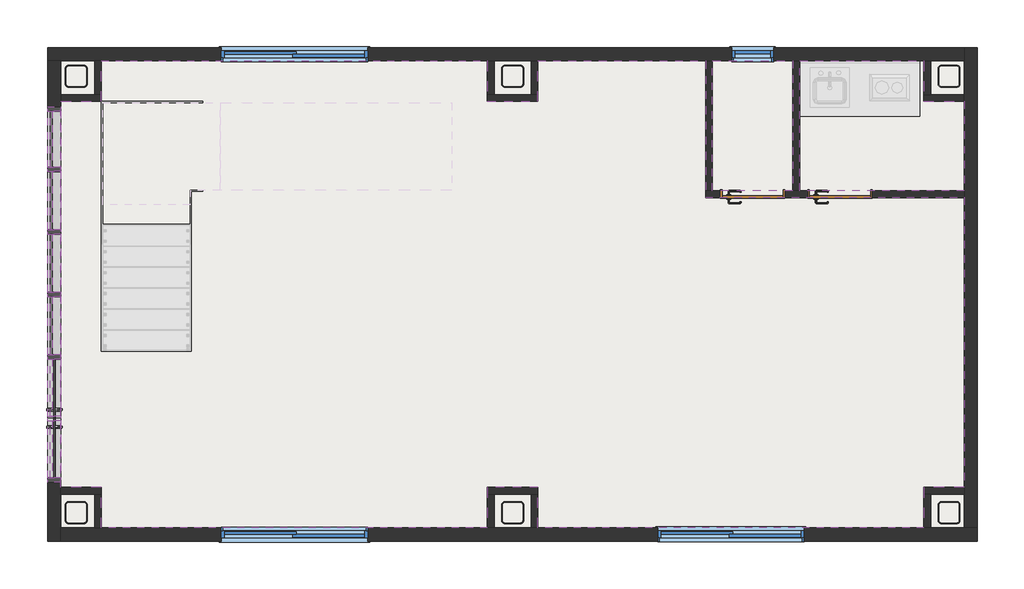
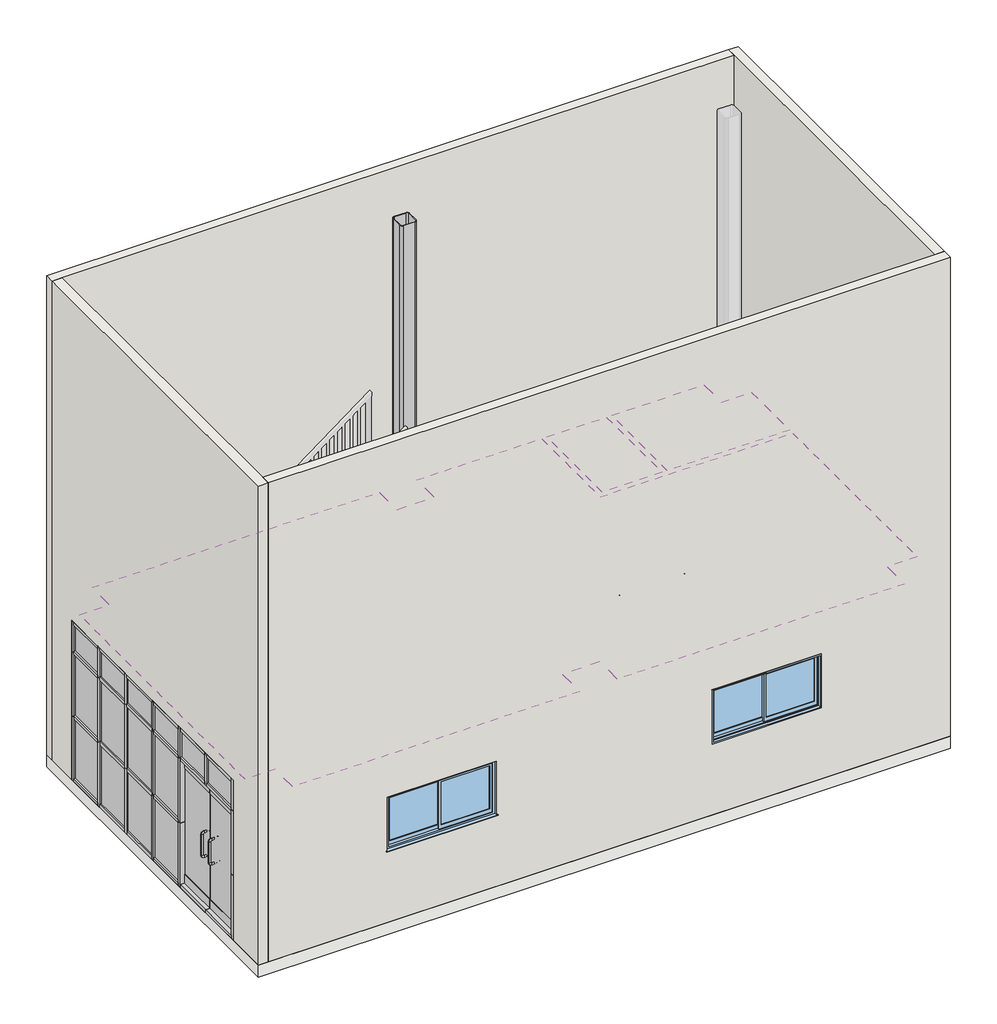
# One storey, part 1 of 2: 41 members, 21 walls, 15 plates, 5 columns, 4 windows, 3 coverings, 2 doors, 1 slab.
"""IFC4 building model written with IfcOpenShell, lengths in millimetres."""

from ifc_helpers import new_model, si_unit, frame, origin, origin_with_axes, place, context, project, spatial, polyline, outline, extrude, faceted_brep, transform, mapped, element, save
from components import hss250x250x12_d809ddac, w700h2000_2a992a34, member_50x150mm_a0e2e66f, member_50x150mm_a9c68ae1, member_50x150mm_62bde7b1, member_50x150mm_43fc7b63, member_50x150mm_86d21357, member_50x150mm_22f77a7a, member_50x150mm_8a69f4a4, member_50x150mm_b3666dbd, member_50x150mm_1a36453b, member_50x150mm_5157afd8, member_50x150mm_37d6beb1, member_50x150mm_f4543df4, plate_bb3d00ed, plate_81b017a3, plate_3e90128c, plate_3f01d40e, plate_8868ab24, plate_6b8e4332, plate_e66cd56a, plate_cf903d6a, w0400h0800_0b9f01bb, w1600h0800_d7cd19be

model = new_model("IFC4")

# Units and contexts
model_context = context("Model", 3, world=origin())
ifc_project = project(units=[si_unit("LENGTHUNIT", "METRE", prefix="MILLI")], contexts=[model_context])

# Site, building, storey
site = spatial("IfcSite", under=ifc_project)
building = spatial("IfcBuilding", under=site)
storey = spatial("IfcBuildingStorey", under=building, Name="1階", Elevation=200.0)

# Columns
placement = place(None, origin())
hss250x250x12_shape = hss250x250x12_d809ddac(model_context)
element("IfcColumn", 1, ObjectType="正方型鋼管-柱 : HSS250x250x12", at=placement, inside=storey, context=model_context, shape_type="MappedRepresentation", body=[
    mapped(hss250x250x12_shape, transform((-5047.3880564, -2413.9617267, 0.0), x_axis=(-1.0, 0.0, 0.0), y_axis=(0.0, -1.0, 0.0), z_axis=(0.0, 0.0, 1.0))),
])
element("IfcColumn", 2, ObjectType="正方型鋼管-柱 : HSS250x250x12", at=placement, inside=storey, context=model_context, shape_type="MappedRepresentation", body=[
    mapped(hss250x250x12_shape, transform((-5047.3880564, 2586.0382733, 0.0), x_axis=(-1.0, 0.0, 0.0), y_axis=(0.0, -1.0, 0.0), z_axis=(0.0, 0.0, 1.0))),
])
element("IfcColumn", 3, ObjectType="正方型鋼管-柱 : HSS250x250x12", at=placement, inside=storey, context=model_context, shape_type="MappedRepresentation", body=[
    mapped(hss250x250x12_shape, transform((-47.3880564, -2413.9617267, 0.0), x_axis=(-1.0, 0.0, 0.0), y_axis=(0.0, -1.0, 0.0), z_axis=(0.0, 0.0, 1.0))),
])
element("IfcColumn", 4, ObjectType="正方型鋼管-柱 : HSS250x250x12", at=placement, inside=storey, context=model_context, shape_type="MappedRepresentation", body=[
    mapped(hss250x250x12_shape, transform((-47.3880564, 2586.0382733, 0.0), x_axis=(-1.0, 0.0, 0.0), y_axis=(0.0, -1.0, 0.0), z_axis=(0.0, 0.0, 1.0))),
])
element("IfcColumn", 5, ObjectType="正方型鋼管-柱 : HSS250x250x12", at=placement, inside=storey, context=model_context, shape_type="MappedRepresentation", body=[
    mapped(hss250x250x12_shape, transform((4952.6119436, -2413.9617267, 0.0), x_axis=(-1.0, 0.0, 0.0), y_axis=(0.0, -1.0, 0.0), z_axis=(0.0, 0.0, 1.0))),
])

# Coverings
element("IfcCovering", 6, ObjectType="グリッド 600x600mm", at=placement, inside=storey, context=model_context, shape_type="SweptSolid", body=[
    extrude(outline(polyline([(-4757.8880564, 2296.5382733), (-4757.8880564, 2761.0382733), (-336.8880564, 2761.0382733), (-336.8880564, 2296.5382733), (242.1119436, 2296.5382733), (242.1119436, 2761.0382733), (2163.1119436, 2761.0382733), (2163.1119436, 1196.5382733), (5127.6119436, 1196.5382733), (5127.6119436, -2124.4617267), (4663.1119436, -2124.4617267), (4663.1119436, -2588.9617267), (242.1119436, -2588.9617267), (242.1119436, -2124.4617267), (-336.8880564, -2124.4617267), (-336.8880564, -2588.9617267), (-4757.8880564, -2588.9617267), (-4757.8880564, -2124.4617267), (-5222.3880564, -2124.4617267), (-5222.3880564, 2296.5382733), (-4757.8880564, 2296.5382733)])), frame((0.0, 0.0, 2800.0), z_axis=(0.0, 0.0, 1.0), x_axis=(1.0, 0.0, 0.0)), (0.0, 0.0, 1.0), 52.0),
])
element("IfcCovering", 7, ObjectType="グリッド 600x600mm", at=placement, inside=storey, context=model_context, shape_type="SweptSolid", body=[
    extrude(outline(polyline([(2242.1119436, 2761.0382733), (3163.1119436, 2761.0382733), (3163.1119436, 1275.5382733), (2242.1119436, 1275.5382733), (2242.1119436, 2761.0382733)])), frame((0.0, 0.0, 2800.0), z_axis=(0.0, 0.0, 1.0), x_axis=(1.0, 0.0, 0.0)), (0.0, 0.0, 1.0), 52.0),
])
element("IfcCovering", 8, ObjectType="グリッド 600x600mm", at=placement, inside=storey, context=model_context, shape_type="SweptSolid", body=[
    extrude(outline(polyline([(3242.1119436, 1275.5382733), (3242.1119436, 2761.0382733), (4663.1119436, 2761.0382733), (4663.1119436, 2296.5382733), (5127.6119436, 2296.5382733), (5127.6119436, 1275.5382733), (3242.1119436, 1275.5382733)])), frame((0.0, 0.0, 2800.0), z_axis=(0.0, 0.0, 1.0), x_axis=(1.0, 0.0, 0.0)), (0.0, 0.0, 1.0), 52.0),
])

# Doors
w700h2000_shape = w700h2000_2a992a34(model_context)
element("IfcDoor", 9, ObjectType="片開き : w700h2000", at=placement, inside=storey, context=model_context, shape_type="MappedRepresentation", body=[
    mapped(w700h2000_shape, transform((2702.6119436, 1236.0382733, 200.0), x_axis=(1.0, 0.0, 0.0), y_axis=(0.0, 1.0, 0.0), z_axis=(0.0, 0.0, 1.0))),
])
element("IfcDoor", 10, ObjectType="片開き : w700h2000", at=placement, inside=storey, context=model_context, shape_type="MappedRepresentation", body=[
    mapped(w700h2000_shape, transform((3702.6119436, 1236.0382733, 200.0), x_axis=(1.0, 0.0, 0.0), y_axis=(0.0, 1.0, 0.0), z_axis=(0.0, 0.0, 1.0))),
])

# Members
member_50x150mm_shape = member_50x150mm_a0e2e66f(model_context)
element("IfcMember", 11, ObjectType="長方形マリオン : 50x150mm", at=placement, inside=storey, context=model_context, shape_type="MappedRepresentation", body=[
    mapped(member_50x150mm_shape, transform((-5297.3880564, 2186.0382733, 2800.0), x_axis=(0.0, 0.0, 1.0), y_axis=(1.0, 0.0, 0.0), z_axis=(0.0, 1.0, 0.0))),
])
member_50x150mm_2_shape = member_50x150mm_a9c68ae1(model_context)
element("IfcMember", 12, ObjectType="長方形マリオン : 50x150mm", at=placement, inside=storey, context=model_context, shape_type="MappedRepresentation", body=[
    mapped(member_50x150mm_2_shape, transform((-5297.3880564, 86.0382733, 200.0), x_axis=(0.0, 1.0, 0.0), y_axis=(1.0, 0.0, 0.0), z_axis=(0.0, 0.0, -1.0))),
])
element("IfcMember", 13, ObjectType="長方形マリオン : 50x150mm", at=placement, inside=storey, context=model_context, shape_type="MappedRepresentation", body=[
    mapped(member_50x150mm_2_shape, transform((-5297.3880564, 1519.3716066, 200.0), x_axis=(0.0, 1.0, 0.0), y_axis=(1.0, 0.0, 0.0), z_axis=(0.0, 0.0, -1.0))),
])
element("IfcMember", 14, ObjectType="長方形マリオン : 50x150mm", at=placement, inside=storey, context=model_context, shape_type="MappedRepresentation", body=[
    mapped(member_50x150mm_2_shape, transform((-5297.3880564, 802.7049399, 200.0), x_axis=(0.0, 1.0, 0.0), y_axis=(1.0, 0.0, 0.0), z_axis=(0.0, 0.0, -1.0))),
])
element("IfcMember", 15, ObjectType="長方形マリオン : 50x150mm", at=placement, inside=storey, context=model_context, shape_type="MappedRepresentation", body=[
    mapped(member_50x150mm_2_shape, transform((-5297.3880564, -630.6283934, 200.0), x_axis=(0.0, 1.0, 0.0), y_axis=(1.0, 0.0, 0.0), z_axis=(0.0, 0.0, -1.0))),
])
member_50x150mm_3_shape = member_50x150mm_62bde7b1(model_context)
element("IfcMember", 16, ObjectType="長方形マリオン : 50x150mm", at=placement, inside=storey, context=model_context, shape_type="MappedRepresentation", body=[
    mapped(member_50x150mm_3_shape, transform((-5297.3880564, 2186.0382733, 2300.0), x_axis=(0.0, 0.0, 1.0), y_axis=(1.0, 0.0, 0.0), z_axis=(0.0, 1.0, 0.0))),
])
element("IfcMember", 17, ObjectType="長方形マリオン : 50x150mm", at=placement, inside=storey, context=model_context, shape_type="MappedRepresentation", body=[
    mapped(member_50x150mm_3_shape, transform((-5297.3880564, 2186.0382733, 1250.0), x_axis=(0.0, 0.0, 1.0), y_axis=(1.0, 0.0, 0.0), z_axis=(0.0, 1.0, 0.0))),
])
member_50x150mm_4_shape = member_50x150mm_43fc7b63(model_context)
element("IfcMember", 18, ObjectType="長方形マリオン : 50x150mm", at=placement, inside=storey, context=model_context, shape_type="MappedRepresentation", body=[
    mapped(member_50x150mm_4_shape, transform((-5297.3880564, 777.7049399, 2300.0), x_axis=(0.0, 0.0, 1.0), y_axis=(1.0, 0.0, 0.0), z_axis=(0.0, 1.0, 0.0))),
])
element("IfcMember", 19, ObjectType="長方形マリオン : 50x150mm", at=placement, inside=storey, context=model_context, shape_type="MappedRepresentation", body=[
    mapped(member_50x150mm_4_shape, transform((-5297.3880564, 1494.3716066, 2300.0), x_axis=(0.0, 0.0, 1.0), y_axis=(1.0, 0.0, 0.0), z_axis=(0.0, 1.0, 0.0))),
])
element("IfcMember", 20, ObjectType="長方形マリオン : 50x150mm", at=placement, inside=storey, context=model_context, shape_type="MappedRepresentation", body=[
    mapped(member_50x150mm_4_shape, transform((-5297.3880564, 61.0382733, 2300.0), x_axis=(0.0, 0.0, 1.0), y_axis=(1.0, 0.0, 0.0), z_axis=(0.0, 1.0, 0.0))),
])
element("IfcMember", 21, ObjectType="長方形マリオン : 50x150mm", at=placement, inside=storey, context=model_context, shape_type="MappedRepresentation", body=[
    mapped(member_50x150mm_4_shape, transform((-5297.3880564, 777.7049399, 1250.0), x_axis=(0.0, 0.0, 1.0), y_axis=(1.0, 0.0, 0.0), z_axis=(0.0, 1.0, 0.0))),
])
element("IfcMember", 22, ObjectType="長方形マリオン : 50x150mm", at=placement, inside=storey, context=model_context, shape_type="MappedRepresentation", body=[
    mapped(member_50x150mm_4_shape, transform((-5297.3880564, 1494.3716066, 1250.0), x_axis=(0.0, 0.0, 1.0), y_axis=(1.0, 0.0, 0.0), z_axis=(0.0, 1.0, 0.0))),
])
element("IfcMember", 23, ObjectType="長方形マリオン : 50x150mm", at=placement, inside=storey, context=model_context, shape_type="MappedRepresentation", body=[
    mapped(member_50x150mm_4_shape, transform((-5297.3880564, 61.0382733, 1250.0), x_axis=(0.0, 0.0, 1.0), y_axis=(1.0, 0.0, 0.0), z_axis=(0.0, 1.0, 0.0))),
])
member_50x150mm_5_shape = member_50x150mm_86d21357(model_context)
element("IfcMember", 24, ObjectType="長方形マリオン : 50x150mm", at=placement, inside=storey, context=model_context, shape_type="MappedRepresentation", body=[
    mapped(member_50x150mm_5_shape, transform((-5297.3880564, 111.0382733, 200.0), x_axis=(0.0, 0.0, -1.0), y_axis=(1.0, 0.0, 0.0), z_axis=(0.0, -1.0, 0.0))),
])
element("IfcMember", 25, ObjectType="長方形マリオン : 50x150mm", at=placement, inside=storey, context=model_context, shape_type="MappedRepresentation", body=[
    mapped(member_50x150mm_5_shape, transform((-5297.3880564, 827.7049399, 200.0), x_axis=(0.0, 0.0, -1.0), y_axis=(1.0, 0.0, 0.0), z_axis=(0.0, -1.0, 0.0))),
])
element("IfcMember", 26, ObjectType="長方形マリオン : 50x150mm", at=placement, inside=storey, context=model_context, shape_type="MappedRepresentation", body=[
    mapped(member_50x150mm_5_shape, transform((-5297.3880564, -605.6283934, 200.0), x_axis=(0.0, 0.0, -1.0), y_axis=(1.0, 0.0, 0.0), z_axis=(0.0, -1.0, 0.0))),
])
element("IfcMember", 27, ObjectType="長方形マリオン : 50x150mm", at=placement, inside=storey, context=model_context, shape_type="MappedRepresentation", body=[
    mapped(member_50x150mm_shape, transform((-5297.3880564, 1544.3716066, 200.0), x_axis=(0.0, 0.0, -1.0), y_axis=(1.0, 0.0, 0.0), z_axis=(0.0, -1.0, 0.0))),
])
element("IfcMember", 28, ObjectType="長方形マリオン : 50x150mm", at=placement, inside=storey, context=model_context, shape_type="MappedRepresentation", body=[
    mapped(member_50x150mm_5_shape, transform((-5297.3880564, 61.0382733, 2800.0), x_axis=(0.0, 0.0, 1.0), y_axis=(1.0, 0.0, 0.0), z_axis=(0.0, 1.0, 0.0))),
])
element("IfcMember", 29, ObjectType="長方形マリオン : 50x150mm", at=placement, inside=storey, context=model_context, shape_type="MappedRepresentation", body=[
    mapped(member_50x150mm_5_shape, transform((-5297.3880564, 1494.3716066, 2800.0), x_axis=(0.0, 0.0, 1.0), y_axis=(1.0, 0.0, 0.0), z_axis=(0.0, 1.0, 0.0))),
])
element("IfcMember", 30, ObjectType="長方形マリオン : 50x150mm", at=placement, inside=storey, context=model_context, shape_type="MappedRepresentation", body=[
    mapped(member_50x150mm_5_shape, transform((-5297.3880564, 777.7049399, 2800.0), x_axis=(0.0, 0.0, 1.0), y_axis=(1.0, 0.0, 0.0), z_axis=(0.0, 1.0, 0.0))),
])
member_50x150mm_6_shape = member_50x150mm_22f77a7a(model_context)
element("IfcMember", 31, ObjectType="長方形マリオン : 50x150mm", at=placement, inside=storey, context=model_context, shape_type="MappedRepresentation", body=[
    mapped(member_50x150mm_6_shape, transform((-5297.3880564, 86.0382733, 2300.0), x_axis=(0.0, 1.0, 0.0), y_axis=(1.0, 0.0, 0.0), z_axis=(0.0, 0.0, -1.0))),
])
element("IfcMember", 32, ObjectType="長方形マリオン : 50x150mm", at=placement, inside=storey, context=model_context, shape_type="MappedRepresentation", body=[
    mapped(member_50x150mm_6_shape, transform((-5297.3880564, 1519.3716066, 2300.0), x_axis=(0.0, 1.0, 0.0), y_axis=(1.0, 0.0, 0.0), z_axis=(0.0, 0.0, -1.0))),
])
element("IfcMember", 33, ObjectType="長方形マリオン : 50x150mm", at=placement, inside=storey, context=model_context, shape_type="MappedRepresentation", body=[
    mapped(member_50x150mm_6_shape, transform((-5297.3880564, 802.7049399, 2300.0), x_axis=(0.0, 1.0, 0.0), y_axis=(1.0, 0.0, 0.0), z_axis=(0.0, 0.0, -1.0))),
])
element("IfcMember", 34, ObjectType="長方形マリオン : 50x150mm", at=placement, inside=storey, context=model_context, shape_type="MappedRepresentation", body=[
    mapped(member_50x150mm_6_shape, transform((-5297.3880564, -630.6283934, 2300.0), x_axis=(0.0, 1.0, 0.0), y_axis=(1.0, 0.0, 0.0), z_axis=(0.0, 0.0, -1.0))),
])
element("IfcMember", 35, ObjectType="長方形マリオン : 50x150mm", at=placement, inside=storey, context=model_context, shape_type="MappedRepresentation", body=[
    mapped(member_50x150mm_2_shape, transform((-5297.3880564, 86.0382733, 1250.0), x_axis=(0.0, 1.0, 0.0), y_axis=(1.0, 0.0, 0.0), z_axis=(0.0, 0.0, -1.0))),
])
element("IfcMember", 36, ObjectType="長方形マリオン : 50x150mm", at=placement, inside=storey, context=model_context, shape_type="MappedRepresentation", body=[
    mapped(member_50x150mm_2_shape, transform((-5297.3880564, 1519.3716066, 1250.0), x_axis=(0.0, 1.0, 0.0), y_axis=(1.0, 0.0, 0.0), z_axis=(0.0, 0.0, -1.0))),
])
element("IfcMember", 37, ObjectType="長方形マリオン : 50x150mm", at=placement, inside=storey, context=model_context, shape_type="MappedRepresentation", body=[
    mapped(member_50x150mm_2_shape, transform((-5297.3880564, 802.7049399, 1250.0), x_axis=(0.0, 1.0, 0.0), y_axis=(1.0, 0.0, 0.0), z_axis=(0.0, 0.0, -1.0))),
])
element("IfcMember", 38, ObjectType="長方形マリオン : 50x150mm", at=placement, inside=storey, context=model_context, shape_type="MappedRepresentation", body=[
    mapped(member_50x150mm_2_shape, transform((-5297.3880564, -630.6283934, 1250.0), x_axis=(0.0, 1.0, 0.0), y_axis=(1.0, 0.0, 0.0), z_axis=(0.0, 0.0, -1.0))),
])
member_50x150mm_7_shape = member_50x150mm_8a69f4a4(model_context)
element("IfcMember", 39, ObjectType="長方形マリオン : 50x150mm", at=placement, inside=storey, context=model_context, shape_type="MappedRepresentation", body=[
    mapped(member_50x150mm_7_shape, transform((-5297.3880564, -1334.7950601, 2275.0), x_axis=(0.0, 1.0, 0.0), y_axis=(1.0, 0.0, 0.0), z_axis=(0.0, 0.0, -1.0))),
])
member_50x150mm_8_shape = member_50x150mm_b3666dbd(model_context)
element("IfcMember", 40, ObjectType="長方形マリオン : 50x150mm", at=placement, inside=storey, context=model_context, shape_type="MappedRepresentation", body=[
    mapped(member_50x150mm_8_shape, transform((-5297.3880564, -2063.9617267, 2800.0), x_axis=(0.0, -1.0, 0.0), y_axis=(1.0, 0.0, 0.0), z_axis=(0.0, 0.0, 1.0))),
])
member_50x150mm_9_shape = member_50x150mm_1a36453b(model_context)
element("IfcMember", 41, ObjectType="長方形マリオン : 50x150mm", at=placement, inside=storey, context=model_context, shape_type="MappedRepresentation", body=[
    mapped(member_50x150mm_9_shape, transform((-5297.3880564, 2236.0382733, 200.0), x_axis=(0.0, 1.0, 0.0), y_axis=(1.0, 0.0, 0.0), z_axis=(0.0, 0.0, -1.0))),
])
element("IfcMember", 42, ObjectType="長方形マリオン : 50x150mm", at=placement, inside=storey, context=model_context, shape_type="MappedRepresentation", body=[
    mapped(member_50x150mm_8_shape, transform((-5297.3880564, 2236.0382733, 2300.0), x_axis=(0.0, 1.0, 0.0), y_axis=(1.0, 0.0, 0.0), z_axis=(0.0, 0.0, -1.0))),
])
element("IfcMember", 43, ObjectType="長方形マリオン : 50x150mm", at=placement, inside=storey, context=model_context, shape_type="MappedRepresentation", body=[
    mapped(member_50x150mm_9_shape, transform((-5297.3880564, 2236.0382733, 1250.0), x_axis=(0.0, 1.0, 0.0), y_axis=(1.0, 0.0, 0.0), z_axis=(0.0, 0.0, -1.0))),
])
element("IfcMember", 44, ObjectType="長方形マリオン : 50x150mm", at=placement, inside=storey, context=model_context, shape_type="MappedRepresentation", body=[
    mapped(member_50x150mm_9_shape, transform((-5297.3880564, -2063.9617267, 2300.0), x_axis=(0.0, -1.0, 0.0), y_axis=(1.0, 0.0, 0.0), z_axis=(0.0, 0.0, 1.0))),
])
element("IfcMember", 45, ObjectType="長方形マリオン : 50x150mm", at=placement, inside=storey, context=model_context, shape_type="MappedRepresentation", body=[
    mapped(member_50x150mm_9_shape, transform((-5297.3880564, -2063.9617267, 1250.0), x_axis=(0.0, -1.0, 0.0), y_axis=(1.0, 0.0, 0.0), z_axis=(0.0, 0.0, 1.0))),
])
member_50x150mm_10_shape = member_50x150mm_5157afd8(model_context)
element("IfcMember", 46, ObjectType="長方形マリオン : 50x150mm", at=placement, inside=storey, context=model_context, shape_type="MappedRepresentation", body=[
    mapped(member_50x150mm_10_shape, transform((-5297.3880564, -2013.9617267, 200.0), x_axis=(0.0, 0.0, -1.0), y_axis=(1.0, 0.0, 0.0), z_axis=(0.0, -1.0, 0.0))),
])
member_50x150mm_11_shape = member_50x150mm_37d6beb1(model_context)
element("IfcMember", 47, ObjectType="長方形マリオン : 50x150mm", at=placement, inside=storey, context=model_context, shape_type="MappedRepresentation", body=[
    mapped(member_50x150mm_11_shape, transform((-5297.3880564, -1359.7950601, 2300.0), x_axis=(0.0, 0.0, 1.0), y_axis=(1.0, 0.0, 0.0), z_axis=(0.0, 1.0, 0.0))),
])
element("IfcMember", 48, ObjectType="長方形マリオン : 50x150mm", at=placement, inside=storey, context=model_context, shape_type="MappedRepresentation", body=[
    mapped(member_50x150mm_11_shape, transform((-5297.3880564, -655.6283934, 2300.0), x_axis=(0.0, 0.0, 1.0), y_axis=(1.0, 0.0, 0.0), z_axis=(0.0, 1.0, 0.0))),
])
element("IfcMember", 49, ObjectType="長方形マリオン : 50x150mm", at=placement, inside=storey, context=model_context, shape_type="MappedRepresentation", body=[
    mapped(member_50x150mm_10_shape, transform((-5297.3880564, -1334.7950601, 200.0), x_axis=(0.0, 0.0, -1.0), y_axis=(1.0, 0.0, 0.0), z_axis=(0.0, -1.0, 0.0))),
])
member_50x150mm_12_shape = member_50x150mm_f4543df4(model_context)
element("IfcMember", 50, ObjectType="長方形マリオン : 50x150mm", at=placement, inside=storey, context=model_context, shape_type="MappedRepresentation", body=[
    mapped(member_50x150mm_12_shape, transform((-5297.3880564, -655.6283934, 2800.0), x_axis=(0.0, 0.0, 1.0), y_axis=(1.0, 0.0, 0.0), z_axis=(0.0, 1.0, 0.0))),
])
element("IfcMember", 51, ObjectType="長方形マリオン : 50x150mm", at=placement, inside=storey, context=model_context, shape_type="MappedRepresentation", body=[
    mapped(member_50x150mm_12_shape, transform((-5297.3880564, -1359.7950601, 2800.0), x_axis=(0.0, 0.0, 1.0), y_axis=(1.0, 0.0, 0.0), z_axis=(0.0, 1.0, 0.0))),
])

# Plates
plate_shape = plate_bb3d00ed(model_context)
element("IfcPlate", 52, ObjectType="システム パネル1 : ガラス", at=placement, inside=storey, context=model_context, shape_type="MappedRepresentation", body=[
    mapped(plate_shape, transform((-5297.3880564, 444.3716066, 250.0), x_axis=(0.0, 1.0, 0.0), y_axis=(-1.0, 0.0, 0.0), z_axis=(0.0, 0.0, 1.0))),
])
element("IfcPlate", 53, ObjectType="システム パネル1 : ガラス", at=placement, inside=storey, context=model_context, shape_type="MappedRepresentation", body=[
    mapped(plate_shape, transform((-5297.3880564, 1161.0382733, 250.0), x_axis=(0.0, 1.0, 0.0), y_axis=(-1.0, 0.0, 0.0), z_axis=(0.0, 0.0, 1.0))),
])
element("IfcPlate", 54, ObjectType="システム パネル1 : ガラス", at=placement, inside=storey, context=model_context, shape_type="MappedRepresentation", body=[
    mapped(plate_shape, transform((-5297.3880564, -272.2950601, 250.0), x_axis=(0.0, 1.0, 0.0), y_axis=(-1.0, 0.0, 0.0), z_axis=(0.0, 0.0, 1.0))),
])
plate_2_shape = plate_81b017a3(model_context)
element("IfcPlate", 55, ObjectType="システム パネル1 : ガラス", at=placement, inside=storey, context=model_context, shape_type="MappedRepresentation", body=[
    mapped(plate_2_shape, transform((-5297.3880564, 1865.2049399, 250.0), x_axis=(0.0, 1.0, 0.0), y_axis=(-1.0, 0.0, 0.0), z_axis=(0.0, 0.0, 1.0))),
])
plate_3_shape = plate_3e90128c(model_context)
element("IfcPlate", 56, ObjectType="システム パネル1 : ガラス", at=placement, inside=storey, context=model_context, shape_type="MappedRepresentation", body=[
    mapped(plate_3_shape, transform((-5297.3880564, 1865.2049399, 2325.0), x_axis=(0.0, 1.0, 0.0), y_axis=(-1.0, 0.0, 0.0), z_axis=(0.0, 0.0, 1.0))),
])
plate_4_shape = plate_3f01d40e(model_context)
element("IfcPlate", 57, ObjectType="システム パネル1 : ガラス", at=placement, inside=storey, context=model_context, shape_type="MappedRepresentation", body=[
    mapped(plate_4_shape, transform((-5297.3880564, -272.2950601, 2325.0), x_axis=(0.0, 1.0, 0.0), y_axis=(-1.0, 0.0, 0.0), z_axis=(0.0, 0.0, 1.0))),
])
element("IfcPlate", 58, ObjectType="システム パネル1 : ガラス", at=placement, inside=storey, context=model_context, shape_type="MappedRepresentation", body=[
    mapped(plate_4_shape, transform((-5297.3880564, 444.3716066, 2325.0), x_axis=(0.0, 1.0, 0.0), y_axis=(-1.0, 0.0, 0.0), z_axis=(0.0, 0.0, 1.0))),
])
element("IfcPlate", 59, ObjectType="システム パネル1 : ガラス", at=placement, inside=storey, context=model_context, shape_type="MappedRepresentation", body=[
    mapped(plate_4_shape, transform((-5297.3880564, 1161.0382733, 2325.0), x_axis=(0.0, 1.0, 0.0), y_axis=(-1.0, 0.0, 0.0), z_axis=(0.0, 0.0, 1.0))),
])
plate_5_shape = plate_8868ab24(model_context)
element("IfcPlate", 60, ObjectType="システム パネル1 : ガラス", at=placement, inside=storey, context=model_context, shape_type="MappedRepresentation", body=[
    mapped(plate_5_shape, transform((-5297.3880564, -272.2950601, 1275.0), x_axis=(0.0, 1.0, 0.0), y_axis=(-1.0, 0.0, 0.0), z_axis=(0.0, 0.0, 1.0))),
])
element("IfcPlate", 61, ObjectType="システム パネル1 : ガラス", at=placement, inside=storey, context=model_context, shape_type="MappedRepresentation", body=[
    mapped(plate_5_shape, transform((-5297.3880564, 444.3716066, 1275.0), x_axis=(0.0, 1.0, 0.0), y_axis=(-1.0, 0.0, 0.0), z_axis=(0.0, 0.0, 1.0))),
])
element("IfcPlate", 62, ObjectType="システム パネル1 : ガラス", at=placement, inside=storey, context=model_context, shape_type="MappedRepresentation", body=[
    mapped(plate_5_shape, transform((-5297.3880564, 1161.0382733, 1275.0), x_axis=(0.0, 1.0, 0.0), y_axis=(-1.0, 0.0, 0.0), z_axis=(0.0, 0.0, 1.0))),
])
plate_6_shape = plate_6b8e4332(model_context)
element("IfcPlate", 63, ObjectType="システム パネル1 : ガラス", at=placement, inside=storey, context=model_context, shape_type="MappedRepresentation", body=[
    mapped(plate_6_shape, transform((-5297.3880564, 1865.2049399, 1275.0), x_axis=(0.0, 1.0, 0.0), y_axis=(-1.0, 0.0, 0.0), z_axis=(0.0, 0.0, 1.0))),
])
plate_7_shape = plate_e66cd56a(model_context)
element("IfcPlate", 64, ObjectType="両開き - ヒンジ2 : ガラス パネル", at=placement, inside=storey, context=model_context, shape_type="MappedRepresentation", body=[
    mapped(plate_7_shape, transform((-5297.3880564, -1334.7950601, 250.0), x_axis=(0.0, 1.0, 0.0), y_axis=(-1.0, 0.0, 0.0), z_axis=(0.0, 0.0, 1.0))),
])
plate_8_shape = plate_cf903d6a(model_context)
element("IfcPlate", 65, ObjectType="システム パネル1 : ガラス", at=placement, inside=storey, context=model_context, shape_type="MappedRepresentation", body=[
    mapped(plate_8_shape, transform((-5297.3880564, -1686.8783934, 2325.0), x_axis=(0.0, 1.0, 0.0), y_axis=(-1.0, 0.0, 0.0), z_axis=(0.0, 0.0, 1.0))),
])
element("IfcPlate", 66, ObjectType="システム パネル1 : ガラス", at=placement, inside=storey, context=model_context, shape_type="MappedRepresentation", body=[
    mapped(plate_8_shape, transform((-5297.3880564, -982.7117267, 2325.0), x_axis=(0.0, 1.0, 0.0), y_axis=(-1.0, 0.0, 0.0), z_axis=(0.0, 0.0, 1.0))),
])

# Slab
element("IfcSlab", 67, ObjectType="一般 200 mm", at=placement, inside=storey, context=model_context, shape_type="SweptSolid", body=[
    extrude(outline(polyline([(5277.6119436, 2911.0382733), (5277.6119436, -2738.9617267), (-5372.3880564, -2738.9617267), (-5372.3880564, 2911.0382733), (5277.6119436, 2911.0382733)])), origin_with_axes(), (0.0, 0.0, 1.0), 200.0),
])

# Walls
element("IfcWall", 68, ObjectType="標準-150mm", at=placement, inside=storey, context=model_context, shape_type="Brep", body=[
    faceted_brep([(-5372.3880564, 2761.0382733, 200.0), (-5222.3880564, 2761.0382733, 200.0), (-4836.8880564, 2761.0382733, 200.0), (-4757.8880564, 2761.0382733, 200.0), (-336.8880564, 2761.0382733, 200.0), (-257.8880564, 2761.0382733, 200.0), (163.1119436, 2761.0382733, 200.0), (242.1119436, 2761.0382733, 200.0), (2163.1119436, 2761.0382733, 200.0), (2242.1119436, 2761.0382733, 200.0), (3163.1119436, 2761.0382733, 200.0), (3242.1119436, 2761.0382733, 200.0), (4663.1119436, 2761.0382733, 200.0), (4742.1119436, 2761.0382733, 200.0), (5127.6119436, 2761.0382733, 200.0), (5127.6119436, 2761.0382733, 8000.0), (-5222.3880564, 2761.0382733, 8000.0), (-5372.3880564, 2761.0382733, 8000.0), (-1707.3880564, 2761.0382733, 2240.0), (-1707.3880564, 2761.0382733, 1360.0), (-3387.3880564, 2761.0382733, 1360.0), (-3387.3880564, 2761.0382733, 2240.0), (2942.6119436, 2761.0382733, 2240.0), (2942.6119436, 2761.0382733, 1360.0), (2462.6119436, 2761.0382733, 1360.0), (2462.6119436, 2761.0382733, 2240.0), (-5372.3880564, 2911.0382733, 200.0), (-5372.3880564, 2911.0382733, 8000.0), (5127.6119436, 2911.0382733, 8000.0), (5127.6119436, 2911.0382733, 200.0), (-1707.3880564, 2911.0382733, 2240.0), (-3387.3880564, 2911.0382733, 2240.0), (-3387.3880564, 2911.0382733, 1360.0), (-1707.3880564, 2911.0382733, 1360.0), (2942.6119436, 2911.0382733, 2240.0), (2462.6119436, 2911.0382733, 2240.0), (2462.6119436, 2911.0382733, 1360.0), (2942.6119436, 2911.0382733, 1360.0)], [[[0, 1, 2, 3, 4, 5, 6, 7, 8, 9, 10, 11, 12, 13, 14, 15, 16, 17], [18, 19, 20, 21], [22, 23, 24, 25]], [[26, 27, 28, 29], [30, 31, 32, 33], [34, 35, 36, 37]], [[14, 13, 12, 11, 10, 9, 8, 7, 6, 5, 4, 3, 2, 1, 0, 26, 29]], [[17, 16, 15, 28, 27]], [[0, 17, 27, 26]], [[15, 14, 29, 28]], [[19, 18, 30, 33]], [[20, 19, 33, 32]], [[21, 20, 32, 31]], [[18, 21, 31, 30]], [[23, 22, 34, 37]], [[24, 23, 37, 36]], [[25, 24, 36, 35]], [[22, 25, 35, 34]]]),
])
element("IfcWall", 69, ObjectType="標準-150mm", at=placement, inside=storey, context=model_context, shape_type="Brep", body=[
    faceted_brep([(-5222.3880564, 2761.0382733, 8000.0), (-5222.3880564, -2588.9617267, 8000.0), (-5222.3880564, -2738.9617267, 8000.0), (-5222.3880564, -2738.9617267, 200.0), (-5222.3880564, -2588.9617267, 200.0), (-5222.3880564, -2203.4617267, 200.0), (-5222.3880564, -2124.4617267, 200.0), (-5222.3880564, -2063.9617267, 200.0), (-5222.3880564, -2063.9617267, 2800.0), (-5222.3880564, 2236.0382733, 2800.0), (-5222.3880564, 2236.0382733, 200.0), (-5222.3880564, 2296.5382733, 200.0), (-5222.3880564, 2375.5382733, 200.0), (-5222.3880564, 2761.0382733, 200.0), (-5372.3880564, -2738.9617267, 8000.0), (-5372.3880564, 2761.0382733, 8000.0), (-5372.3880564, 2761.0382733, 200.0), (-5372.3880564, 2236.0382733, 200.0), (-5372.3880564, 2236.0382733, 2800.0), (-5372.3880564, -2063.9617267, 2800.0), (-5372.3880564, -2063.9617267, 200.0), (-5372.3880564, -2738.9617267, 200.0)], [[[0, 1, 2, 3, 4, 5, 6, 7, 8, 9, 10, 11, 12, 13]], [[14, 15, 16, 17, 18, 19, 20, 21]], [[3, 21, 20, 7, 6, 5, 4]], [[16, 13, 12, 11, 10, 17]], [[2, 1, 0, 15, 14]], [[3, 2, 14, 21]], [[0, 13, 16, 15]], [[19, 8, 7, 20]], [[8, 19, 18, 9]], [[9, 18, 17, 10]]]),
])
element("IfcWall", 70, ObjectType="標準-150mm", at=placement, inside=storey, context=model_context, shape_type="Brep", body=[
    faceted_brep([(5277.6119436, -2588.9617267, 200.0), (5127.6119436, -2588.9617267, 200.0), (4742.1119436, -2588.9617267, 200.0), (4663.1119436, -2588.9617267, 200.0), (242.1119436, -2588.9617267, 200.0), (163.1119436, -2588.9617267, 200.0), (-257.8880564, -2588.9617267, 200.0), (-336.8880564, -2588.9617267, 200.0), (-4757.8880564, -2588.9617267, 200.0), (-4836.8880564, -2588.9617267, 200.0), (-5222.3880564, -2588.9617267, 200.0), (-5222.3880564, -2588.9617267, 8000.0), (5127.6119436, -2588.9617267, 8000.0), (5277.6119436, -2588.9617267, 8000.0), (-3387.3880564, -2588.9617267, 2240.0), (-3387.3880564, -2588.9617267, 1360.0), (-1707.3880564, -2588.9617267, 1360.0), (-1707.3880564, -2588.9617267, 2240.0), (3292.6119436, -2588.9617267, 2240.0), (1612.6119436, -2588.9617267, 2240.0), (1612.6119436, -2588.9617267, 1360.0), (3292.6119436, -2588.9617267, 1360.0), (5277.6119436, -2738.9617267, 200.0), (5277.6119436, -2738.9617267, 8000.0), (-5222.3880564, -2738.9617267, 8000.0), (-5222.3880564, -2738.9617267, 200.0), (-3387.3880564, -2738.9617267, 2240.0), (-1707.3880564, -2738.9617267, 2240.0), (-1707.3880564, -2738.9617267, 1360.0), (-3387.3880564, -2738.9617267, 1360.0), (3292.6119436, -2738.9617267, 2240.0), (3292.6119436, -2738.9617267, 1360.0), (1612.6119436, -2738.9617267, 1360.0), (1612.6119436, -2738.9617267, 2240.0)], [[[0, 1, 2, 3, 4, 5, 6, 7, 8, 9, 10, 11, 12, 13], [14, 15, 16, 17], [18, 19, 20, 21]], [[22, 23, 24, 25], [26, 27, 28, 29], [30, 31, 32, 33]], [[10, 9, 8, 7, 6, 5, 4, 3, 2, 1, 0, 22, 25]], [[13, 12, 11, 24, 23]], [[0, 13, 23, 22]], [[11, 10, 25, 24]], [[15, 14, 26, 29]], [[16, 15, 29, 28]], [[17, 16, 28, 27]], [[14, 17, 27, 26]], [[31, 30, 18, 21]], [[32, 31, 21, 20]], [[33, 32, 20, 19]], [[30, 33, 19, 18]]]),
])
element("IfcWall", 71, ObjectType="標準-150mm", at=placement, inside=storey, context=model_context, shape_type="Brep", body=[
    faceted_brep([(5127.6119436, 2911.0382733, 200.0), (5127.6119436, 2761.0382733, 200.0), (5127.6119436, 2375.5382733, 200.0), (5127.6119436, 2296.5382733, 200.0), (5127.6119436, 1275.5382733, 200.0), (5127.6119436, 1196.5382733, 200.0), (5127.6119436, -2124.4617267, 200.0), (5127.6119436, -2203.4617267, 200.0), (5127.6119436, -2588.9617267, 200.0), (5127.6119436, -2588.9617267, 8000.0), (5127.6119436, 2761.0382733, 8000.0), (5127.6119436, 2911.0382733, 8000.0), (5277.6119436, 2911.0382733, 200.0), (5277.6119436, 2911.0382733, 8000.0), (5277.6119436, -2588.9617267, 8000.0), (5277.6119436, -2588.9617267, 200.0)], [[[0, 1, 2, 3, 4, 5, 6, 7, 8, 9, 10, 11]], [[12, 13, 14, 15]], [[8, 7, 6, 5, 4, 3, 2, 1, 0, 12, 15]], [[11, 10, 9, 14, 13]], [[0, 11, 13, 12]], [[9, 8, 15, 14]]]),
])
element("IfcWall", 72, ObjectType="内壁-79mm 間仕切り(1時間)", at=placement, inside=storey, context=model_context, shape_type="SweptSolid", body=[
    extrude(outline(polyline([(-4836.8880564, 2375.5382733), (-4836.8880564, 2761.0382733), (-4757.8880564, 2761.0382733), (-4757.8880564, 2375.5382733), (-4836.8880564, 2375.5382733)])), frame((0.0, 0.0, 200.0), z_axis=(0.0, 0.0, 1.0), x_axis=(1.0, 0.0, 0.0)), (0.0, 0.0, 1.0), 3450.0),
])
element("IfcWall", 73, ObjectType="内壁-79mm 間仕切り(1時間)", at=placement, inside=storey, context=model_context, shape_type="Brep", body=[
    faceted_brep([(-4757.8880564, 2375.5382733, 200.0), (-4836.8880564, 2375.5382733, 200.0), (-5222.3880564, 2375.5382733, 200.0), (-5222.3880564, 2375.5382733, 3650.0), (-4836.8880564, 2375.5382733, 3650.0), (-4757.8880564, 2375.5382733, 3650.0), (-4757.8880564, 2296.5382733, 200.0), (-4757.8880564, 2296.5382733, 3650.0), (-5222.3880564, 2296.5382733, 3650.0), (-5222.3880564, 2296.5382733, 200.0)], [[[0, 1, 2, 3, 4, 5]], [[6, 7, 8, 9]], [[2, 1, 0, 6, 9]], [[5, 4, 3, 8, 7]], [[0, 5, 7, 6]], [[3, 2, 9, 8]]]),
])
element("IfcWall", 74, ObjectType="内壁-79mm 間仕切り(1時間)", at=placement, inside=storey, context=model_context, shape_type="SweptSolid", body=[
    extrude(outline(polyline([(163.1119436, 2375.5382733), (163.1119436, 2761.0382733), (242.1119436, 2761.0382733), (242.1119436, 2375.5382733), (163.1119436, 2375.5382733)])), frame((0.0, 0.0, 200.0), z_axis=(0.0, 0.0, 1.0), x_axis=(1.0, 0.0, 0.0)), (0.0, 0.0, 1.0), 3450.0),
])
element("IfcWall", 75, ObjectType="内壁-79mm 間仕切り(1時間)", at=placement, inside=storey, context=model_context, shape_type="Brep", body=[
    faceted_brep([(242.1119436, 2375.5382733, 200.0), (163.1119436, 2375.5382733, 200.0), (-257.8880564, 2375.5382733, 200.0), (-336.8880564, 2375.5382733, 200.0), (-336.8880564, 2375.5382733, 3650.0), (-257.8880564, 2375.5382733, 3650.0), (163.1119436, 2375.5382733, 3650.0), (242.1119436, 2375.5382733, 3650.0), (242.1119436, 2296.5382733, 200.0), (242.1119436, 2296.5382733, 3650.0), (-336.8880564, 2296.5382733, 3650.0), (-336.8880564, 2296.5382733, 200.0)], [[[0, 1, 2, 3, 4, 5, 6, 7]], [[8, 9, 10, 11]], [[3, 2, 1, 0, 8, 11]], [[7, 6, 5, 4, 10, 9]], [[0, 7, 9, 8]], [[4, 3, 11, 10]]]),
])
element("IfcWall", 76, ObjectType="内壁-79mm 間仕切り(1時間)", at=placement, inside=storey, context=model_context, shape_type="SweptSolid", body=[
    extrude(outline(polyline([(-257.8880564, 2761.0382733), (-257.8880564, 2375.5382733), (-336.8880564, 2375.5382733), (-336.8880564, 2761.0382733), (-257.8880564, 2761.0382733)])), frame((0.0, 0.0, 200.0), z_axis=(0.0, 0.0, 1.0), x_axis=(1.0, 0.0, 0.0)), (0.0, 0.0, 1.0), 3450.0),
])
element("IfcWall", 77, ObjectType="内壁-79mm 間仕切り(1時間)", at=placement, inside=storey, context=model_context, shape_type="SweptSolid", body=[
    extrude(outline(polyline([(4663.1119436, 2375.5382733), (4663.1119436, 2761.0382733), (4742.1119436, 2761.0382733), (4742.1119436, 2375.5382733), (4663.1119436, 2375.5382733)])), frame((0.0, 0.0, 200.0), z_axis=(0.0, 0.0, 1.0), x_axis=(1.0, 0.0, 0.0)), (0.0, 0.0, 1.0), 3450.0),
])
element("IfcWall", 78, ObjectType="内壁-79mm 間仕切り(1時間)", at=placement, inside=storey, context=model_context, shape_type="Brep", body=[
    faceted_brep([(4663.1119436, 2296.5382733, 200.0), (5127.6119436, 2296.5382733, 200.0), (5127.6119436, 2296.5382733, 3650.0), (4663.1119436, 2296.5382733, 3650.0), (4663.1119436, 2375.5382733, 200.0), (4663.1119436, 2375.5382733, 3650.0), (4742.1119436, 2375.5382733, 3650.0), (5127.6119436, 2375.5382733, 3650.0), (5127.6119436, 2375.5382733, 200.0), (4742.1119436, 2375.5382733, 200.0)], [[[0, 1, 2, 3]], [[4, 5, 6, 7, 8, 9]], [[1, 0, 4, 9, 8]], [[3, 2, 7, 6, 5]], [[0, 3, 5, 4]], [[2, 1, 8, 7]]]),
])
element("IfcWall", 79, ObjectType="内壁-79mm 間仕切り(1時間)", at=placement, inside=storey, context=model_context, shape_type="SweptSolid", body=[
    extrude(outline(polyline([(-4757.8880564, -2203.4617267), (-4757.8880564, -2588.9617267), (-4836.8880564, -2588.9617267), (-4836.8880564, -2203.4617267), (-4757.8880564, -2203.4617267)])), frame((0.0, 0.0, 200.0), z_axis=(0.0, 0.0, 1.0), x_axis=(1.0, 0.0, 0.0)), (0.0, 0.0, 1.0), 3450.0),
])
element("IfcWall", 80, ObjectType="内壁-79mm 間仕切り(1時間)", at=placement, inside=storey, context=model_context, shape_type="Brep", body=[
    faceted_brep([(-4757.8880564, -2124.4617267, 200.0), (-5222.3880564, -2124.4617267, 200.0), (-5222.3880564, -2124.4617267, 3650.0), (-4757.8880564, -2124.4617267, 3650.0), (-4757.8880564, -2203.4617267, 200.0), (-4757.8880564, -2203.4617267, 3650.0), (-4836.8880564, -2203.4617267, 3650.0), (-5222.3880564, -2203.4617267, 3650.0), (-5222.3880564, -2203.4617267, 200.0), (-4836.8880564, -2203.4617267, 200.0)], [[[0, 1, 2, 3]], [[4, 5, 6, 7, 8, 9]], [[1, 0, 4, 9, 8]], [[3, 2, 7, 6, 5]], [[0, 3, 5, 4]], [[2, 1, 8, 7]]]),
])
element("IfcWall", 81, ObjectType="内壁-79mm 間仕切り(1時間)", at=placement, inside=storey, context=model_context, shape_type="SweptSolid", body=[
    extrude(outline(polyline([(242.1119436, -2203.4617267), (242.1119436, -2588.9617267), (163.1119436, -2588.9617267), (163.1119436, -2203.4617267), (242.1119436, -2203.4617267)])), frame((0.0, 0.0, 200.0), z_axis=(0.0, 0.0, 1.0), x_axis=(1.0, 0.0, 0.0)), (0.0, 0.0, 1.0), 3450.0),
])
element("IfcWall", 82, ObjectType="内壁-79mm 間仕切り(1時間)", at=placement, inside=storey, context=model_context, shape_type="Brep", body=[
    faceted_brep([(242.1119436, -2124.4617267, 200.0), (-336.8880564, -2124.4617267, 200.0), (-336.8880564, -2124.4617267, 3650.0), (242.1119436, -2124.4617267, 3650.0), (242.1119436, -2203.4617267, 200.0), (242.1119436, -2203.4617267, 3650.0), (163.1119436, -2203.4617267, 3650.0), (-257.8880564, -2203.4617267, 3650.0), (-336.8880564, -2203.4617267, 3650.0), (-336.8880564, -2203.4617267, 200.0), (-257.8880564, -2203.4617267, 200.0), (163.1119436, -2203.4617267, 200.0)], [[[0, 1, 2, 3]], [[4, 5, 6, 7, 8, 9, 10, 11]], [[1, 0, 4, 11, 10, 9]], [[3, 2, 8, 7, 6, 5]], [[0, 3, 5, 4]], [[2, 1, 9, 8]]]),
])
element("IfcWall", 83, ObjectType="内壁-79mm 間仕切り(1時間)", at=placement, inside=storey, context=model_context, shape_type="SweptSolid", body=[
    extrude(outline(polyline([(-336.8880564, -2588.9617267), (-336.8880564, -2203.4617267), (-257.8880564, -2203.4617267), (-257.8880564, -2588.9617267), (-336.8880564, -2588.9617267)])), frame((0.0, 0.0, 200.0), z_axis=(0.0, 0.0, 1.0), x_axis=(1.0, 0.0, 0.0)), (0.0, 0.0, 1.0), 3450.0),
])
element("IfcWall", 84, ObjectType="内壁-79mm 間仕切り(1時間)", at=placement, inside=storey, context=model_context, shape_type="SweptSolid", body=[
    extrude(outline(polyline([(4742.1119436, -2203.4617267), (4742.1119436, -2588.9617267), (4663.1119436, -2588.9617267), (4663.1119436, -2203.4617267), (4742.1119436, -2203.4617267)])), frame((0.0, 0.0, 200.0), z_axis=(0.0, 0.0, 1.0), x_axis=(1.0, 0.0, 0.0)), (0.0, 0.0, 1.0), 3450.0),
])
element("IfcWall", 85, ObjectType="内壁-79mm 間仕切り(1時間)", at=placement, inside=storey, context=model_context, shape_type="Brep", body=[
    faceted_brep([(4663.1119436, -2203.4617267, 200.0), (4742.1119436, -2203.4617267, 200.0), (5127.6119436, -2203.4617267, 200.0), (5127.6119436, -2203.4617267, 3650.0), (4742.1119436, -2203.4617267, 3650.0), (4663.1119436, -2203.4617267, 3650.0), (4663.1119436, -2124.4617267, 200.0), (4663.1119436, -2124.4617267, 3650.0), (5127.6119436, -2124.4617267, 3650.0), (5127.6119436, -2124.4617267, 200.0)], [[[0, 1, 2, 3, 4, 5]], [[6, 7, 8, 9]], [[2, 1, 0, 6, 9]], [[5, 4, 3, 8, 7]], [[0, 5, 7, 6]], [[3, 2, 9, 8]]]),
])
element("IfcWall", 86, ObjectType="内壁-79mm 間仕切り(1時間)", at=placement, inside=storey, context=model_context, shape_type="Brep", body=[
    faceted_brep([(3332.6119436, 1275.5382733, 2220.0), (3332.6119436, 1275.5382733, 200.0), (3242.1119436, 1275.5382733, 200.0), (3163.1119436, 1275.5382733, 200.0), (3072.6119436, 1275.5382733, 200.0), (3072.6119436, 1275.5382733, 2220.0), (2332.6119436, 1275.5382733, 2220.0), (2332.6119436, 1275.5382733, 200.0), (2242.1119436, 1275.5382733, 200.0), (2163.1119436, 1275.5382733, 200.0), (2163.1119436, 1275.5382733, 3650.0), (2242.1119436, 1275.5382733, 3650.0), (3163.1119436, 1275.5382733, 3650.0), (3242.1119436, 1275.5382733, 3650.0), (5127.6119436, 1275.5382733, 3650.0), (5127.6119436, 1275.5382733, 200.0), (4072.6119436, 1275.5382733, 200.0), (4072.6119436, 1275.5382733, 2220.0), (3072.6119436, 1196.5382733, 200.0), (3332.6119436, 1196.5382733, 200.0), (3332.6119436, 1196.5382733, 2220.0), (4072.6119436, 1196.5382733, 2220.0), (4072.6119436, 1196.5382733, 200.0), (5127.6119436, 1196.5382733, 200.0), (5127.6119436, 1196.5382733, 3650.0), (2163.1119436, 1196.5382733, 3650.0), (2163.1119436, 1196.5382733, 200.0), (2332.6119436, 1196.5382733, 200.0), (2332.6119436, 1196.5382733, 2220.0), (3072.6119436, 1196.5382733, 2220.0)], [[[0, 1, 2, 3, 4, 5, 6, 7, 8, 9, 10, 11, 12, 13, 14, 15, 16, 17]], [[18, 19, 20, 21, 22, 23, 24, 25, 26, 27, 28, 29]], [[9, 8, 7, 27, 26]], [[16, 15, 23, 22]], [[4, 3, 2, 1, 19, 18]], [[14, 13, 12, 11, 10, 25, 24]], [[15, 14, 24, 23]], [[10, 9, 26, 25]], [[18, 29, 5, 4]], [[28, 27, 7, 6]], [[29, 28, 6, 5]], [[22, 21, 17, 16]], [[20, 19, 1, 0]], [[21, 20, 0, 17]]]),
])
element("IfcWall", 87, ObjectType="内壁-79mm 間仕切り(1時間)", at=placement, inside=storey, context=model_context, shape_type="SweptSolid", body=[
    extrude(outline(polyline([(2242.1119436, 2761.0382733), (2242.1119436, 1275.5382733), (2163.1119436, 1275.5382733), (2163.1119436, 2761.0382733), (2242.1119436, 2761.0382733)])), frame((0.0, 0.0, 200.0), z_axis=(0.0, 0.0, 1.0), x_axis=(1.0, 0.0, 0.0)), (0.0, 0.0, 1.0), 3450.0),
])
element("IfcWall", 88, ObjectType="内壁-79mm 間仕切り(1時間)", at=placement, inside=storey, context=model_context, shape_type="SweptSolid", body=[
    extrude(outline(polyline([(3163.1119436, 1275.5382733), (3163.1119436, 2761.0382733), (3242.1119436, 2761.0382733), (3242.1119436, 1275.5382733), (3163.1119436, 1275.5382733)])), frame((0.0, 0.0, 200.0), z_axis=(0.0, 0.0, 1.0), x_axis=(1.0, 0.0, 0.0)), (0.0, 0.0, 1.0), 3450.0),
])

# Windows
w0400h0800_shape = w0400h0800_0b9f01bb(model_context)
element("IfcWindow", 89, ObjectType="縦すべり窓 : w0400h0800", at=placement, inside=storey, context=model_context, shape_type="MappedRepresentation", body=[
    mapped(w0400h0800_shape, transform((2702.6119436, 2836.0382733, 200.0), x_axis=(1.0, 0.0, 0.0), y_axis=(0.0, 1.0, 0.0), z_axis=(0.0, 0.0, 1.0))),
])
w1600h0800_shape = w1600h0800_d7cd19be(model_context)
element("IfcWindow", 90, ObjectType="引違い腰窓_2枚 : w1600h0800", at=placement, inside=storey, context=model_context, shape_type="MappedRepresentation", body=[
    mapped(w1600h0800_shape, transform((-2547.3880564, -2663.9617267, 200.0), x_axis=(-1.0, 0.0, 0.0), y_axis=(0.0, -1.0, 0.0), z_axis=(0.0, 0.0, 1.0))),
])
element("IfcWindow", 91, ObjectType="引違い腰窓_2枚 : w1600h0800", at=placement, inside=storey, context=model_context, shape_type="MappedRepresentation", body=[
    mapped(w1600h0800_shape, transform((2452.6119436, -2663.9617267, 200.0), x_axis=(1.0, 0.0, 0.0), y_axis=(0.0, 1.0, 0.0), z_axis=(0.0, 0.0, 1.0))),
])
element("IfcWindow", 92, ObjectType="引違い腰窓_2枚 : w1600h0800", at=placement, inside=storey, context=model_context, shape_type="MappedRepresentation", body=[
    mapped(w1600h0800_shape, transform((-2547.3880564, 2836.0382733, 200.0), x_axis=(1.0, 0.0, 0.0), y_axis=(0.0, 1.0, 0.0), z_axis=(0.0, 0.0, 1.0))),
])

save(model, "model.ifc")
